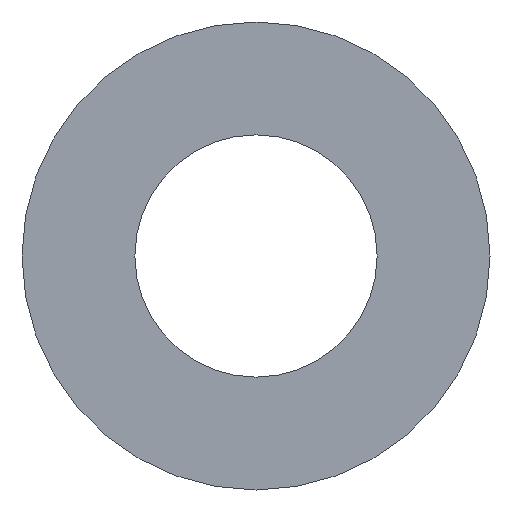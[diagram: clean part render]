
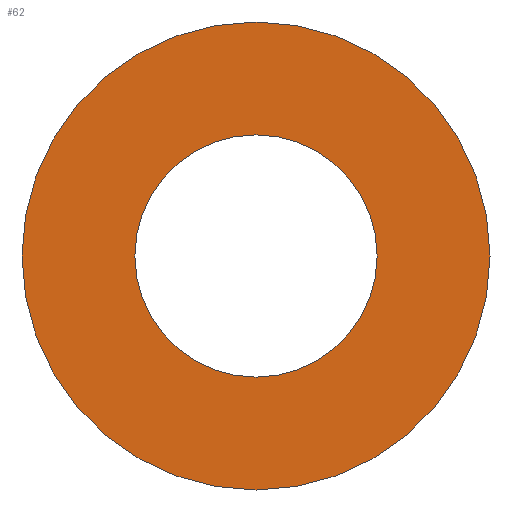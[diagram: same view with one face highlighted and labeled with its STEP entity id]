
A CAD part, front view. The second image highlights one B-rep face of the part: STEP entity #62.
In plain terms, the highlighted planar face has unit normal (0, -1, 0).
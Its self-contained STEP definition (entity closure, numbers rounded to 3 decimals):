
#20=PLANE('',#83);
#26=ORIENTED_EDGE('',*,*,#30,.T.);
#27=ORIENTED_EDGE('',*,*,#32,.F.);
#30=EDGE_CURVE('',#34,#34,#38,.T.);
#32=EDGE_CURVE('',#36,#36,#40,.T.);
#34=VERTEX_POINT('',#106);
#36=VERTEX_POINT('',#111);
#38=CIRCLE('',#78,73.5);
#40=CIRCLE('',#81,142.);
#46=EDGE_LOOP('',(#26));
#47=EDGE_LOOP('',(#27));
#54=FACE_BOUND('',#46,.T.);
#55=FACE_BOUND('',#47,.T.);
#62=ADVANCED_FACE('',(#54,#55),#20,.F.);
#78=AXIS2_PLACEMENT_3D('',#105,#89,#90);
#81=AXIS2_PLACEMENT_3D('',#110,#95,#96);
#83=AXIS2_PLACEMENT_3D('',#114,#99,#100);
#89=DIRECTION('',(0.,1.,0.));
#90=DIRECTION('',(1.,0.,0.));
#95=DIRECTION('',(0.,1.,0.));
#96=DIRECTION('',(1.,0.,0.));
#99=DIRECTION('',(0.,1.,0.));
#100=DIRECTION('',(0.,0.,1.));
#105=CARTESIAN_POINT('',(0.,-1.5,0.));
#106=CARTESIAN_POINT('',(73.5,-1.5,0.));
#110=CARTESIAN_POINT('',(0.,-1.5,0.));
#111=CARTESIAN_POINT('',(142.,-1.5,0.));
#114=CARTESIAN_POINT('',(0.,-1.5,0.));
